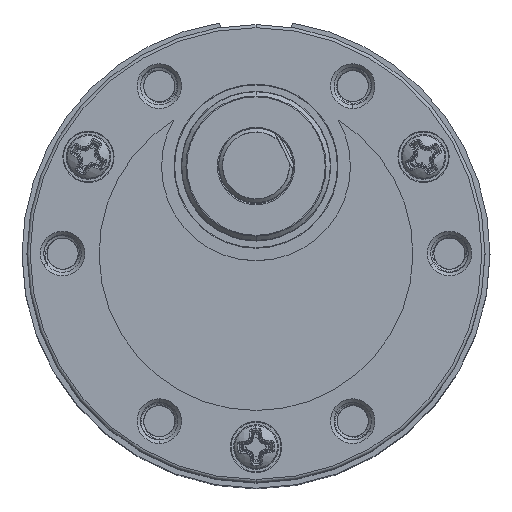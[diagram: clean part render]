
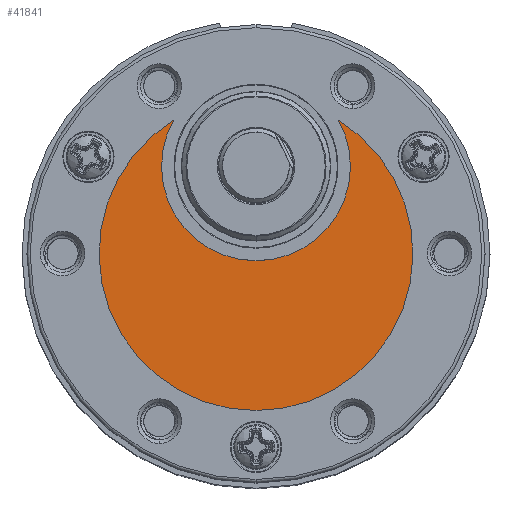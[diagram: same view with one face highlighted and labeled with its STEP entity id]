
A CAD part, top view. The second image highlights one B-rep face of the part: STEP entity #41841.
In plain terms, the highlighted planar face has unit normal (0, 0, 1).
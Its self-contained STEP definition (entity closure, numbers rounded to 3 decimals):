
#17053 = CARTESIAN_POINT ( 'NONE',  ( 0., 7., 0. ) ) ;
#18103 = PLANE ( 'NONE',  #45345 ) ;
#18504 = DIRECTION ( 'NONE',  ( 0., 0., 1. ) ) ;
#24339 = DIRECTION ( 'NONE',  ( 0., 1., 0. ) ) ;
#25741 = CARTESIAN_POINT ( 'NONE',  ( -6.603, 10.702, 0. ) ) ;
#26514 = DIRECTION ( 'NONE',  ( 0., 0., 1. ) ) ;
#34528 = ORIENTED_EDGE ( 'NONE', *, *, #106628, .T. ) ;
#35249 = FACE_OUTER_BOUND ( 'NONE', #79214, .T. ) ;
#41841 = ADVANCED_FACE ( 'NONE', ( #35249 ), #18103, .T. ) ;
#42467 = DIRECTION ( 'NONE',  ( 0., 0., 1. ) ) ;
#44882 = DIRECTION ( 'NONE',  ( 0., 1., 0. ) ) ;
#45345 = AXIS2_PLACEMENT_3D ( 'NONE', #84189, #18504, #44882 ) ;
#53554 = CIRCLE ( 'NONE', #100412, 12.575 ) ;
#57098 = VERTEX_POINT ( 'NONE', #93088 ) ;
#76059 = VERTEX_POINT ( 'NONE', #25741 ) ;
#79214 = EDGE_LOOP ( 'NONE', ( #85240, #34528 ) ) ;
#84189 = CARTESIAN_POINT ( 'NONE',  ( 0., 0., 0. ) ) ;
#84782 = AXIS2_PLACEMENT_3D ( 'NONE', #17053, #26514, #92590 ) ;
#85240 = ORIENTED_EDGE ( 'NONE', *, *, #107854, .F. ) ;
#92590 = DIRECTION ( 'NONE',  ( 0., 1., 0. ) ) ;
#93088 = CARTESIAN_POINT ( 'NONE',  ( 6.603, 10.702, 0. ) ) ;
#100265 = CARTESIAN_POINT ( 'NONE',  ( 0., 0., 0. ) ) ;
#100412 = AXIS2_PLACEMENT_3D ( 'NONE', #100265, #42467, #24339 ) ;
#106628 = EDGE_CURVE ( 'NONE', #76059, #57098, #53554, .T. ) ;
#107854 = EDGE_CURVE ( 'NONE', #76059, #57098, #111038, .T. ) ;
#111038 = CIRCLE ( 'NONE', #84782, 7.57 ) ;
